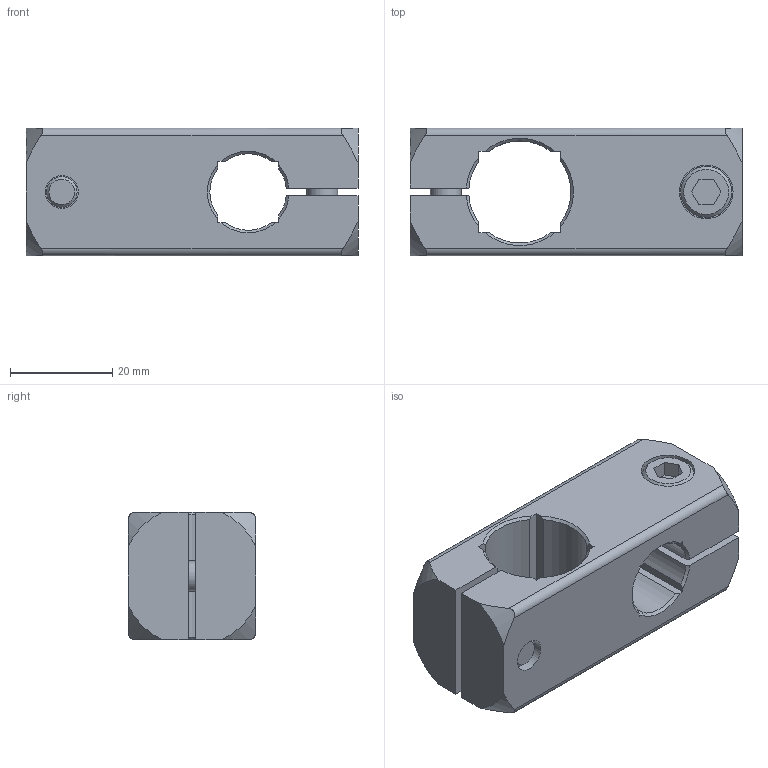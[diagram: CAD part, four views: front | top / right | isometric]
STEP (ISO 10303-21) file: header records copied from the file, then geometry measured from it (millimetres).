
FILE_DESCRIPTION( ( 'STEP AP203' ), '1' );
FILE_NAME( 'C:/Temp/Ganter_Step_05_03_2020/data/3_7/gn_474/Two-way clamp mounting GN 474-B20-B15-ELS.stp', '2020-03-12T14:44:54', ( 'License CC BY-ND 4.0' ), ( 'CADENAS' ), ' ', 'PARTsolutions', ' ' );
FILE_SCHEMA( ( 'CONFIG_CONTROL_DESIGN' ) );
Length unit declared in the file: millimetre
Products named in the file (1): _Two-way clamp mounting GN 474-B20-B15-ELS
Bounding box: 65 x 25 x 25 mm (x, y, z)
Volume: 26417.5 mm3; surface area: 12508.6 mm2
Topology: 1 solids, 1 shells, 106 faces, 280 edges, 186 vertices
Faces by surface type: plane 50, cone 32, cylinder 24
Full cylindrical faces by diameter (mm): 6 x2, 6.5 x4, 10 x2, 10.5 x2
Entity records: 3404 total; most frequent: CARTESIAN_POINT 843, ORIENTED_EDGE 528, DIRECTION 486, EDGE_CURVE 264, VERTEX_POINT 184, AXIS2_PLACEMENT_3D 179, EDGE_LOOP 134, LINE 128
